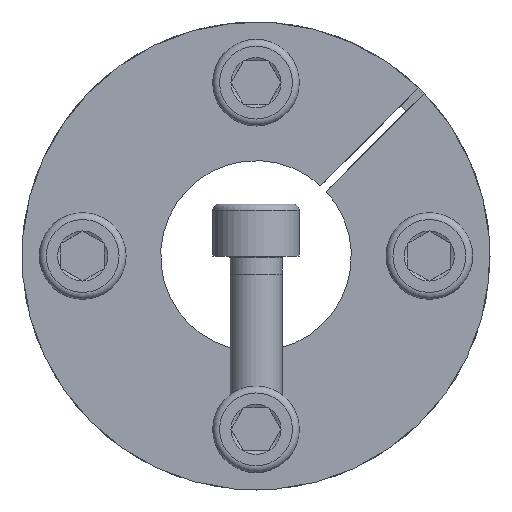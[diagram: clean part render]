
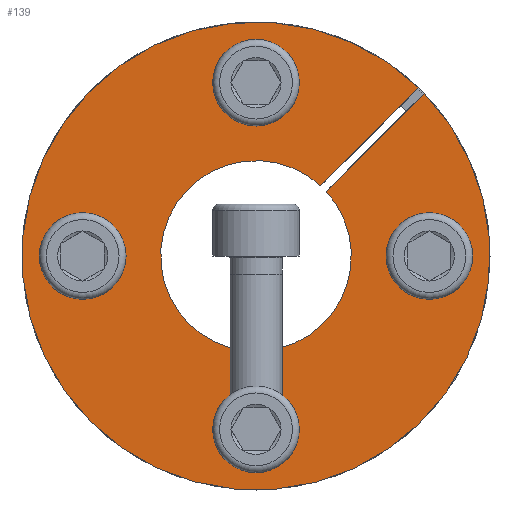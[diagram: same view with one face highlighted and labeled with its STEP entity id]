
A CAD part, front view. The second image highlights one B-rep face of the part: STEP entity #139.
In plain terms, the highlighted planar face has unit normal (0, -1, 0).
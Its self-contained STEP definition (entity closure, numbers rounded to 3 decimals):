
#139 = ADVANCED_FACE( '', ( #259, #260, #261, #262, #263 ), #264, .F. );
#259 = FACE_BOUND( '', #379, .T. );
#260 = FACE_BOUND( '', #380, .T. );
#261 = FACE_BOUND( '', #381, .T. );
#262 = FACE_BOUND( '', #382, .T. );
#263 = FACE_OUTER_BOUND( '', #383, .T. );
#264 = PLANE( '', #384 );
#379 = EDGE_LOOP( '', ( #692 ) );
#380 = EDGE_LOOP( '', ( #693 ) );
#381 = EDGE_LOOP( '', ( #694 ) );
#382 = EDGE_LOOP( '', ( #695 ) );
#383 = EDGE_LOOP( '', ( #696, #697, #698, #699 ) );
#384 = AXIS2_PLACEMENT_3D( '', #700, #701, #702 );
#692 = ORIENTED_EDGE( '', *, *, #1019, .T. );
#693 = ORIENTED_EDGE( '', *, *, #1022, .T. );
#694 = ORIENTED_EDGE( '', *, *, #1000, .T. );
#695 = ORIENTED_EDGE( '', *, *, #994, .T. );
#696 = ORIENTED_EDGE( '', *, *, #971, .T. );
#697 = ORIENTED_EDGE( '', *, *, #951, .T. );
#698 = ORIENTED_EDGE( '', *, *, #1007, .T. );
#699 = ORIENTED_EDGE( '', *, *, #1005, .F. );
#700 = CARTESIAN_POINT( '', ( 0., 0., 27. ) );
#701 = DIRECTION( '', ( 0., 1., 0. ) );
#702 = DIRECTION( '', ( 0., 0., 1. ) );
#951 = EDGE_CURVE( '', #1270, #1274, #1276, .T. );
#971 = EDGE_CURVE( '', #1294, #1270, #1310, .T. );
#994 = EDGE_CURVE( '', #1345, #1345, #1346, .T. );
#1000 = EDGE_CURVE( '', #1354, #1354, #1355, .T. );
#1005 = EDGE_CURVE( '', #1294, #1360, #1362, .T. );
#1007 = EDGE_CURVE( '', #1274, #1360, #1364, .T. );
#1019 = EDGE_CURVE( '', #1376, #1376, #1377, .T. );
#1022 = EDGE_CURVE( '', #1380, #1380, #1381, .T. );
#1270 = VERTEX_POINT( '', #1965 );
#1274 = VERTEX_POINT( '', #1970 );
#1276 = CIRCLE( '', #1973, 27. );
#1294 = VERTEX_POINT( '', #1999 );
#1310 = LINE( '', #2030, #2031 );
#1345 = VERTEX_POINT( '', #2071 );
#1346 = CIRCLE( '', #2072, 3. );
#1354 = VERTEX_POINT( '', #2081 );
#1355 = CIRCLE( '', #2082, 3. );
#1360 = VERTEX_POINT( '', #2087 );
#1362 = CIRCLE( '', #2090, 11. );
#1364 = LINE( '', #2092, #2093 );
#1376 = VERTEX_POINT( '', #2113 );
#1377 = CIRCLE( '', #2114, 3. );
#1380 = VERTEX_POINT( '', #2117 );
#1381 = CIRCLE( '', #2118, 3. );
#1965 = CARTESIAN_POINT( '', ( 18.766, 0., 19.412 ) );
#1970 = CARTESIAN_POINT( '', ( 19.412, 0., 18.766 ) );
#1973 = AXIS2_PLACEMENT_3D( '', #2265, #2266, #2267 );
#1999 = CARTESIAN_POINT( '', ( 7.448, 0., 8.095 ) );
#2030 = CARTESIAN_POINT( '', ( 7.448, 0., 8.095 ) );
#2031 = VECTOR( '', #2285, 1000. );
#2071 = CARTESIAN_POINT( '', ( -20., 0., 3. ) );
#2072 = AXIS2_PLACEMENT_3D( '', #2327, #2328, #2329 );
#2081 = CARTESIAN_POINT( '', ( -3., 0., -20. ) );
#2082 = AXIS2_PLACEMENT_3D( '', #2337, #2338, #2339 );
#2087 = CARTESIAN_POINT( '', ( 8.095, 0., 7.448 ) );
#2090 = AXIS2_PLACEMENT_3D( '', #2344, #2345, #2346 );
#2092 = CARTESIAN_POINT( '', ( 19.415, 0., 18.769 ) );
#2093 = VECTOR( '', #2347, 1000. );
#2113 = CARTESIAN_POINT( '', ( 3., 0., 20. ) );
#2114 = AXIS2_PLACEMENT_3D( '', #2353, #2354, #2355 );
#2117 = CARTESIAN_POINT( '', ( 20., 0., -3. ) );
#2118 = AXIS2_PLACEMENT_3D( '', #2356, #2357, #2358 );
#2265 = CARTESIAN_POINT( '', ( 0., 0., 0. ) );
#2266 = DIRECTION( '', ( 0., -1., 0. ) );
#2267 = DIRECTION( '', ( 0., 0., -1. ) );
#2285 = DIRECTION( '', ( 0.707, 0., 0.707 ) );
#2327 = CARTESIAN_POINT( '', ( -20., 0., 0. ) );
#2328 = DIRECTION( '', ( 0., 1., 0. ) );
#2329 = DIRECTION( '', ( 0., 0., 1. ) );
#2337 = CARTESIAN_POINT( '', ( 0., 0., -20. ) );
#2338 = DIRECTION( '', ( 0., 1., 0. ) );
#2339 = DIRECTION( '', ( -1., 0., 0. ) );
#2344 = CARTESIAN_POINT( '', ( 0., 0., 0. ) );
#2345 = DIRECTION( '', ( 0., -1., 0. ) );
#2346 = DIRECTION( '', ( 0., 0., -1. ) );
#2347 = DIRECTION( '', ( -0.707, 0., -0.707 ) );
#2353 = CARTESIAN_POINT( '', ( 0., 0., 20. ) );
#2354 = DIRECTION( '', ( 0., 1., 0. ) );
#2355 = DIRECTION( '', ( 1., 0., 0. ) );
#2356 = CARTESIAN_POINT( '', ( 20., 0., 0. ) );
#2357 = DIRECTION( '', ( 0., 1., 0. ) );
#2358 = DIRECTION( '', ( 0., 0., -1. ) );
